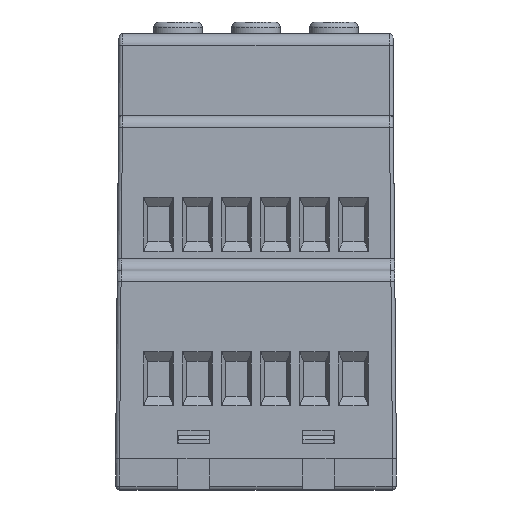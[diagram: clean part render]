
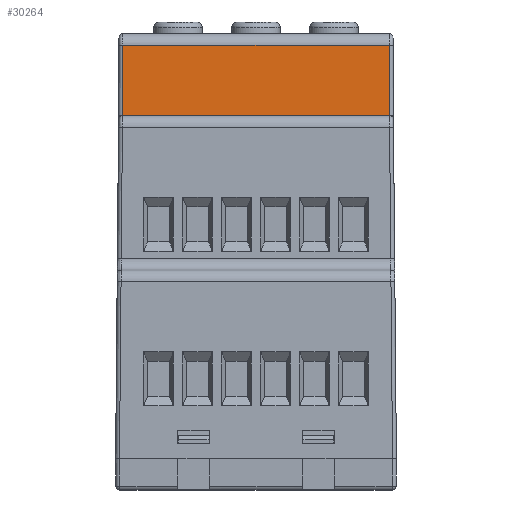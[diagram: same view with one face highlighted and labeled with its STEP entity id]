
A CAD part, front view. The second image highlights one B-rep face of the part: STEP entity #30264.
In plain terms, the highlighted planar face has unit normal (0, -1, 0.009).
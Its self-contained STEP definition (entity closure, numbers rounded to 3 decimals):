
#145 = EDGE_CURVE ( 'NONE', #11962, #18329, #33781, .T. ) ;
#157 = CARTESIAN_POINT ( 'NONE',  ( 31.5, 22.4, 48. ) ) ;
#703 = CARTESIAN_POINT ( 'NONE',  ( 7.465, 22.391, 47. ) ) ;
#917 = DIRECTION ( 'NONE',  ( 1., 0., 0. ) ) ;
#1439 = CARTESIAN_POINT ( 'NONE',  ( 0.929, 22.479, 57.013 ) ) ;
#1544 = LINE ( 'NONE', #22318, #6950 ) ;
#2154 = VECTOR ( 'NONE', #32290, 1000. ) ;
#2228 = CARTESIAN_POINT ( 'NONE',  ( 4.5, 22.4, 48. ) ) ;
#2286 = VERTEX_POINT ( 'NONE', #36954 ) ;
#2663 = VECTOR ( 'NONE', #39397, 1000. ) ;
#2698 = CARTESIAN_POINT ( 'NONE',  ( 7.513, 22.403, 48.366 ) ) ;
#2766 = DIRECTION ( 'NONE',  ( -0.009, 0.009, 1. ) ) ;
#3046 = ORIENTED_EDGE ( 'NONE', *, *, #24144, .T. ) ;
#3092 = CARTESIAN_POINT ( 'NONE',  ( 0.85, 22.401, 48. ) ) ;
#3147 = DIRECTION ( 'NONE',  ( 1., 0., 0. ) ) ;
#3159 = CARTESIAN_POINT ( 'NONE',  ( 31.465, 22.391, 47. ) ) ;
#3388 = LINE ( 'NONE', #37568, #18983 ) ;
#3562 = LINE ( 'NONE', #22695, #37064 ) ;
#3599 = CARTESIAN_POINT ( 'NONE',  ( 0.85, 22.401, 48. ) ) ;
#4481 = CARTESIAN_POINT ( 'NONE',  ( 35.058, 22.492, 58.496 ) ) ;
#4653 = VERTEX_POINT ( 'NONE', #21310 ) ;
#4927 = VECTOR ( 'NONE', #39921, 1000. ) ;
#5091 = CARTESIAN_POINT ( 'NONE',  ( 4.5, 22.4, 48. ) ) ;
#5361 = CARTESIAN_POINT ( 'NONE',  ( 28.463, 22.4, 48. ) ) ;
#5557 = EDGE_CURVE ( 'NONE', #36441, #4653, #1544, .T. ) ;
#5915 = CARTESIAN_POINT ( 'NONE',  ( 18., 22.4, 48. ) ) ;
#6050 = CARTESIAN_POINT ( 'NONE',  ( 0.861, 22.4, 48. ) ) ;
#6577 = VECTOR ( 'NONE', #17561, 1000. ) ;
#6950 = VECTOR ( 'NONE', #10294, 1000. ) ;
#7036 = DIRECTION ( 'NONE',  ( 0.035, -0.009, -0.999 ) ) ;
#7075 = CARTESIAN_POINT ( 'NONE',  ( 35.15, 22.401, 48. ) ) ;
#7270 = LINE ( 'NONE', #19694, #38492 ) ;
#7367 = CARTESIAN_POINT ( 'NONE',  ( 18., 22.479, 57.013 ) ) ;
#7493 = VERTEX_POINT ( 'NONE', #35326 ) ;
#8588 = DIRECTION ( 'NONE',  ( -0.035, -0.009, -0.999 ) ) ;
#8842 = CARTESIAN_POINT ( 'NONE',  ( 34.5, 22.391, 47. ) ) ;
#8966 = CARTESIAN_POINT ( 'NONE',  ( 34.5, 22.391, 47. ) ) ;
#9037 = CARTESIAN_POINT ( 'NONE',  ( 18., 22.4, 48. ) ) ;
#9147 = EDGE_CURVE ( 'NONE', #18329, #32875, #10961, .T. ) ;
#9166 = LINE ( 'NONE', #8966, #4927 ) ;
#9248 = ORIENTED_EDGE ( 'NONE', *, *, #32456, .T. ) ;
#9273 = DIRECTION ( 'NONE',  ( 1., 0., 0. ) ) ;
#9574 = ORIENTED_EDGE ( 'NONE', *, *, #25329, .T. ) ;
#10294 = DIRECTION ( 'NONE',  ( 0.035, -0.009, -0.999 ) ) ;
#10904 = LINE ( 'NONE', #17215, #2154 ) ;
#10920 = EDGE_CURVE ( 'NONE', #26869, #11651, #20803, .T. ) ;
#10961 = LINE ( 'NONE', #4481, #19372 ) ;
#11235 = VERTEX_POINT ( 'NONE', #157 ) ;
#11536 = VERTEX_POINT ( 'NONE', #3159 ) ;
#11651 = VERTEX_POINT ( 'NONE', #703 ) ;
#11816 = ORIENTED_EDGE ( 'NONE', *, *, #36446, .T. ) ;
#11872 = ORIENTED_EDGE ( 'NONE', *, *, #23612, .F. ) ;
#11962 = VERTEX_POINT ( 'NONE', #37092 ) ;
#13243 = VERTEX_POINT ( 'NONE', #3092 ) ;
#13889 = EDGE_LOOP ( 'NONE', ( #11872, #38551, #9574, #37530, #30815, #18745, #30740, #21055, #34735, #40126, #21669, #29566, #3046, #16594, #11816, #21187, #38215, #9248 ) ) ;
#14013 = CARTESIAN_POINT ( 'NONE',  ( 18., 22.4, 48. ) ) ;
#14616 = EDGE_CURVE ( 'NONE', #11235, #27436, #36453, .T. ) ;
#15079 = CARTESIAN_POINT ( 'NONE',  ( 18., 22.4, 48. ) ) ;
#15189 = CARTESIAN_POINT ( 'NONE',  ( 28.5, 22.4, 48. ) ) ;
#15385 = CARTESIAN_POINT ( 'NONE',  ( 0.882, 22.4, 48. ) ) ;
#16176 = CARTESIAN_POINT ( 'NONE',  ( 18., 22.4, 48. ) ) ;
#16594 = ORIENTED_EDGE ( 'NONE', *, *, #33233, .T. ) ;
#17215 = CARTESIAN_POINT ( 'NONE',  ( 18., 22.4, 48. ) ) ;
#17561 = DIRECTION ( 'NONE',  ( -0.009, -0.009, -1. ) ) ;
#17698 = CARTESIAN_POINT ( 'NONE',  ( 4.488, 22.4, 48. ) ) ;
#18328 = DIRECTION ( 'NONE',  ( 1., 0., 0. ) ) ;
#18329 = VERTEX_POINT ( 'NONE', #7075 ) ;
#18434 = LINE ( 'NONE', #30630, #2663 ) ;
#18645 = EDGE_CURVE ( 'NONE', #20589, #7493, #37155, .T. ) ;
#18745 = ORIENTED_EDGE ( 'NONE', *, *, #5557, .T. ) ;
#18816 = CARTESIAN_POINT ( 'NONE',  ( 7.5, 22.4, 48. ) ) ;
#18983 = VECTOR ( 'NONE', #7036, 1000. ) ;
#19372 = VECTOR ( 'NONE', #2766, 1000. ) ;
#19694 = CARTESIAN_POINT ( 'NONE',  ( 31.514, 22.403, 48.394 ) ) ;
#20589 = VERTEX_POINT ( 'NONE', #23852 ) ;
#20803 = LINE ( 'NONE', #2698, #37217 ) ;
#21055 = ORIENTED_EDGE ( 'NONE', *, *, #32800, .F. ) ;
#21167 = EDGE_CURVE ( 'NONE', #37706, #33298, #36918, .T. ) ;
#21187 = ORIENTED_EDGE ( 'NONE', *, *, #18645, .T. ) ;
#21310 = CARTESIAN_POINT ( 'NONE',  ( 28.535, 22.391, 47. ) ) ;
#21669 = ORIENTED_EDGE ( 'NONE', *, *, #145, .T. ) ;
#21736 = B_SPLINE_CURVE_WITH_KNOTS ( 'NONE', 3,
 ( #3599, #6050, #21923, #15385 ),
 .UNSPECIFIED., .F., .F.,
 ( 4, 4 ),
 ( 0., 0.009 ),
 .UNSPECIFIED. ) ;
#21923 = CARTESIAN_POINT ( 'NONE',  ( 0.871, 22.4, 48. ) ) ;
#22086 = EDGE_CURVE ( 'NONE', #7493, #28737, #33062, .T. ) ;
#22318 = CARTESIAN_POINT ( 'NONE',  ( 28.486, 22.403, 48.394 ) ) ;
#22617 = PLANE ( 'NONE',  #27399 ) ;
#22695 = CARTESIAN_POINT ( 'NONE',  ( 18., 22.4, 48. ) ) ;
#23021 = FACE_OUTER_BOUND ( 'NONE', #13889, .T. ) ;
#23209 = DIRECTION ( 'NONE',  ( 0., -1., 0.009 ) ) ;
#23612 = EDGE_CURVE ( 'NONE', #11651, #2286, #33466, .T. ) ;
#23852 = CARTESIAN_POINT ( 'NONE',  ( 0.882, 22.4, 48. ) ) ;
#24138 = VECTOR ( 'NONE', #3147, 1000. ) ;
#24144 = EDGE_CURVE ( 'NONE', #32875, #28715, #37897, .T. ) ;
#25030 = CARTESIAN_POINT ( 'NONE',  ( 31.537, 22.4, 48. ) ) ;
#25329 = EDGE_CURVE ( 'NONE', #26869, #37706, #18434, .T. ) ;
#25569 = EDGE_CURVE ( 'NONE', #11536, #4653, #9166, .T. ) ;
#25951 = CARTESIAN_POINT ( 'NONE',  ( 0.851, 22.401, 48.15 ) ) ;
#26869 = VERTEX_POINT ( 'NONE', #18816 ) ;
#27289 = VECTOR ( 'NONE', #27506, 1000. ) ;
#27399 = AXIS2_PLACEMENT_3D ( 'NONE', #14013, #23209, #35609 ) ;
#27436 = VERTEX_POINT ( 'NONE', #25030 ) ;
#27506 = DIRECTION ( 'NONE',  ( 1., 0., 0. ) ) ;
#28360 = CARTESIAN_POINT ( 'NONE',  ( 7.537, 22.4, 48. ) ) ;
#28715 = VERTEX_POINT ( 'NONE', #1439 ) ;
#28737 = VERTEX_POINT ( 'NONE', #2228 ) ;
#28987 = LINE ( 'NONE', #25951, #6577 ) ;
#29333 = DIRECTION ( 'NONE',  ( -1., 0., 0. ) ) ;
#29566 = ORIENTED_EDGE ( 'NONE', *, *, #9147, .T. ) ;
#30264 = ADVANCED_FACE ( 'NONE', ( #23021 ), #22617, .T. ) ;
#30630 = CARTESIAN_POINT ( 'NONE',  ( 18., 22.4, 48. ) ) ;
#30740 = ORIENTED_EDGE ( 'NONE', *, *, #25569, .F. ) ;
#30815 = ORIENTED_EDGE ( 'NONE', *, *, #38879, .T. ) ;
#32100 = DIRECTION ( 'NONE',  ( -0.035, -0.009, -0.999 ) ) ;
#32290 = DIRECTION ( 'NONE',  ( 1., 0., 0. ) ) ;
#32456 = EDGE_CURVE ( 'NONE', #28737, #2286, #3388, .T. ) ;
#32755 = EDGE_CURVE ( 'NONE', #27436, #11962, #10904, .T. ) ;
#32800 = EDGE_CURVE ( 'NONE', #11235, #11536, #7270, .T. ) ;
#32875 = VERTEX_POINT ( 'NONE', #39809 ) ;
#32952 = CARTESIAN_POINT ( 'NONE',  ( 4.463, 22.4, 48. ) ) ;
#33062 = B_SPLINE_CURVE_WITH_KNOTS ( 'NONE', 3,
 ( #32952, #39678, #17698, #5091 ),
 .UNSPECIFIED., .F., .F.,
 ( 4, 4 ),
 ( 0.99, 1. ),
 .UNSPECIFIED. ) ;
#33233 = EDGE_CURVE ( 'NONE', #28715, #13243, #28987, .T. ) ;
#33298 = VERTEX_POINT ( 'NONE', #5361 ) ;
#33332 = VECTOR ( 'NONE', #33663, 1000. ) ;
#33359 = VECTOR ( 'NONE', #29333, 1000. ) ;
#33466 = LINE ( 'NONE', #8842, #33332 ) ;
#33663 = DIRECTION ( 'NONE',  ( -1., 0., 0. ) ) ;
#33781 = LINE ( 'NONE', #5915, #36900 ) ;
#34735 = ORIENTED_EDGE ( 'NONE', *, *, #14616, .T. ) ;
#35326 = CARTESIAN_POINT ( 'NONE',  ( 4.463, 22.4, 48. ) ) ;
#35609 = DIRECTION ( 'NONE',  ( 0., -0.009, -1. ) ) ;
#36441 = VERTEX_POINT ( 'NONE', #15189 ) ;
#36446 = EDGE_CURVE ( 'NONE', #13243, #20589, #21736, .T. ) ;
#36453 = LINE ( 'NONE', #15079, #27289 ) ;
#36900 = VECTOR ( 'NONE', #18328, 1000. ) ;
#36918 = LINE ( 'NONE', #9037, #24138 ) ;
#36954 = CARTESIAN_POINT ( 'NONE',  ( 4.535, 22.391, 47. ) ) ;
#37064 = VECTOR ( 'NONE', #917, 1000. ) ;
#37092 = CARTESIAN_POINT ( 'NONE',  ( 35.12, 22.4, 48. ) ) ;
#37155 = LINE ( 'NONE', #16176, #39889 ) ;
#37217 = VECTOR ( 'NONE', #8588, 1000. ) ;
#37530 = ORIENTED_EDGE ( 'NONE', *, *, #21167, .T. ) ;
#37568 = CARTESIAN_POINT ( 'NONE',  ( 4.516, 22.396, 47.529 ) ) ;
#37706 = VERTEX_POINT ( 'NONE', #28360 ) ;
#37897 = LINE ( 'NONE', #7367, #33359 ) ;
#38215 = ORIENTED_EDGE ( 'NONE', *, *, #22086, .T. ) ;
#38492 = VECTOR ( 'NONE', #32100, 1000. ) ;
#38551 = ORIENTED_EDGE ( 'NONE', *, *, #10920, .F. ) ;
#38879 = EDGE_CURVE ( 'NONE', #33298, #36441, #3562, .T. ) ;
#39397 = DIRECTION ( 'NONE',  ( 1., 0., 0. ) ) ;
#39678 = CARTESIAN_POINT ( 'NONE',  ( 4.475, 22.4, 48. ) ) ;
#39809 = CARTESIAN_POINT ( 'NONE',  ( 35.071, 22.479, 57.013 ) ) ;
#39889 = VECTOR ( 'NONE', #9273, 1000. ) ;
#39921 = DIRECTION ( 'NONE',  ( -1., 0., 0. ) ) ;
#40126 = ORIENTED_EDGE ( 'NONE', *, *, #32755, .T. ) ;
